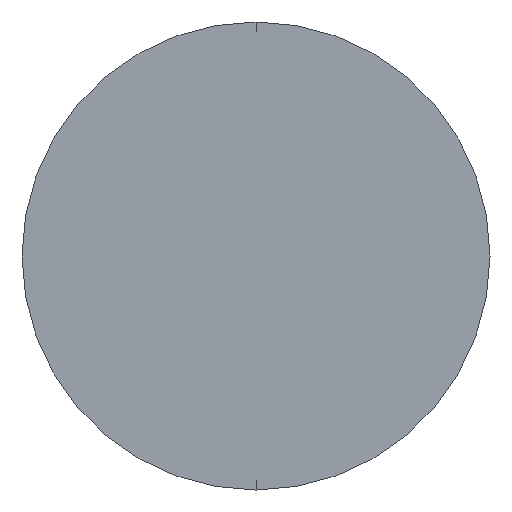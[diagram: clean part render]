
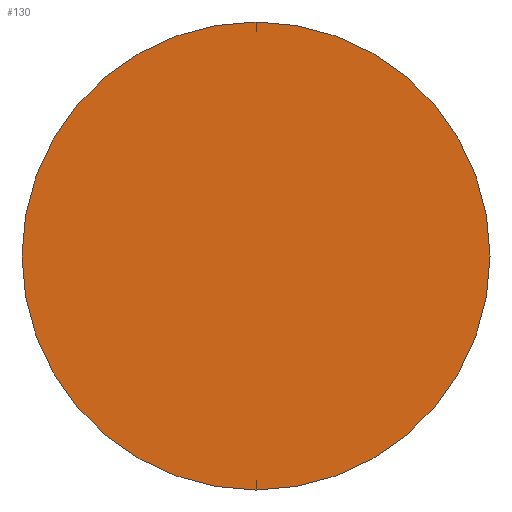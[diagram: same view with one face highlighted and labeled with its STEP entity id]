
A CAD part, left-side view. The second image highlights one B-rep face of the part: STEP entity #130.
In plain terms, the highlighted planar face has unit normal (-1, 0, 0).
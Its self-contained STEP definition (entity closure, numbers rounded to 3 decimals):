
#13 = FACE_OUTER_BOUND ( 'NONE', #231, .T. ) ;
#15 = EDGE_CURVE ( 'NONE', #210, #118, #163, .T. ) ;
#21 = DIRECTION ( 'NONE',  ( 0., 0., 1. ) ) ;
#32 = DIRECTION ( 'NONE',  ( 0., 0., -1. ) ) ;
#35 = DIRECTION ( 'NONE',  ( 1., 0., 0. ) ) ;
#63 = DIRECTION ( 'NONE',  ( -1., 0., 0. ) ) ;
#74 = DIRECTION ( 'NONE',  ( 0., 0., 1. ) ) ;
#82 = CARTESIAN_POINT ( 'NONE',  ( 0., 0., 2. ) ) ;
#93 = AXIS2_PLACEMENT_3D ( 'NONE', #247, #252, #74 ) ;
#108 = EDGE_CURVE ( 'NONE', #118, #210, #189, .T. ) ;
#118 = VERTEX_POINT ( 'NONE', #213 ) ;
#130 = ADVANCED_FACE ( 'NONE', ( #13 ), #202, .F. ) ;
#157 = AXIS2_PLACEMENT_3D ( 'NONE', #174, #35, #32 ) ;
#160 = ORIENTED_EDGE ( 'NONE', *, *, #15, .T. ) ;
#161 = CARTESIAN_POINT ( 'NONE',  ( 0., 0., 0. ) ) ;
#163 = CIRCLE ( 'NONE', #263, 2. ) ;
#174 = CARTESIAN_POINT ( 'NONE',  ( 0., 0., 0. ) ) ;
#189 = CIRCLE ( 'NONE', #93, 2. ) ;
#202 = PLANE ( 'NONE',  #157 ) ;
#210 = VERTEX_POINT ( 'NONE', #82 ) ;
#213 = CARTESIAN_POINT ( 'NONE',  ( 0., 0., -2. ) ) ;
#231 = EDGE_LOOP ( 'NONE', ( #160, #238 ) ) ;
#238 = ORIENTED_EDGE ( 'NONE', *, *, #108, .T. ) ;
#247 = CARTESIAN_POINT ( 'NONE',  ( 0., 0., 0. ) ) ;
#252 = DIRECTION ( 'NONE',  ( -1., 0., 0. ) ) ;
#263 = AXIS2_PLACEMENT_3D ( 'NONE', #161, #63, #21 ) ;
